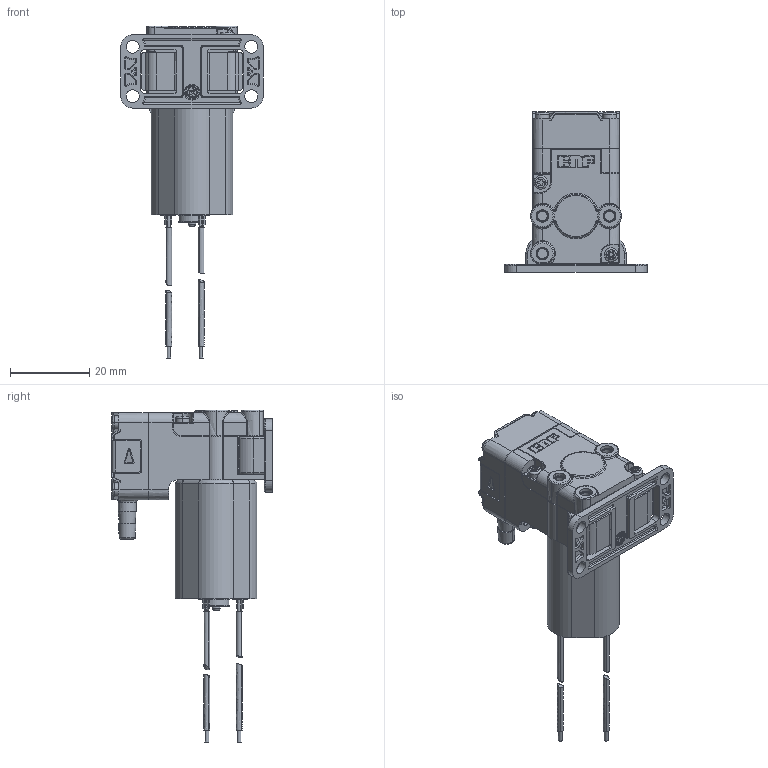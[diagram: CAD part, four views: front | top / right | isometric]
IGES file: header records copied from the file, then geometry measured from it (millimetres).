
Start section:  PTC IGES file: ff20_dc-m_3-8-02670-00.igs
Global section: file name: ff20_dc-m_3-8-02670-00.igs; native system: Creo Parametric by Parametric Technology Corporation; preprocessor: 2016100; author: DommenR; organization: Unknown; date: 20170816.081621; units: millimetre
Bounding box: 36 x 40.6 x 84 mm (x, y, z)
Volume: 25323.8 mm3; surface area: 10872.1 mm2
Topology: 3 solids, 7 shells, 2421 faces, 6253 edges, 3899 vertices
Faces by surface type: revolution 1209, bspline 1208, extrusion 4
